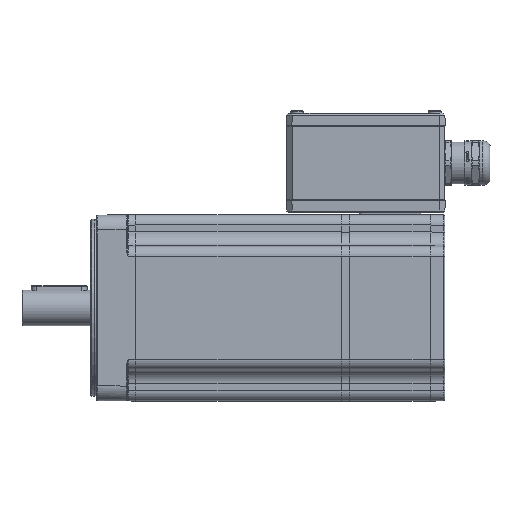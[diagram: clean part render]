
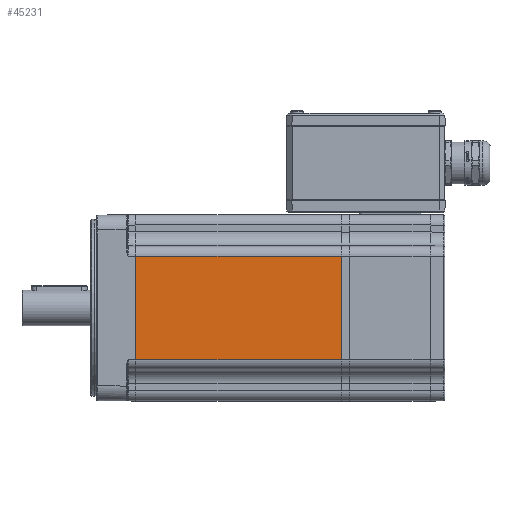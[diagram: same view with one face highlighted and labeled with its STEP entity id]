
A CAD part, left-side view. The second image highlights one B-rep face of the part: STEP entity #45231.
In plain terms, the highlighted planar face has unit normal (-1, 0, 0) as drawn and (1, 0, 0) by its records, which use the part's own axes.
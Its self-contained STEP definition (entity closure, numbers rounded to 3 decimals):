
#1712=LINE('',#83811,#5387);
#1730=LINE('',#83896,#5405);
#1737=LINE('',#83935,#5412);
#1738=LINE('',#83936,#5413);
#5387=VECTOR('',#69900,1000.);
#5405=VECTOR('',#69968,1000.);
#5412=VECTOR('',#70015,1000.);
#5413=VECTOR('',#70016,1000.);
#9041=PLANE('',#62636);
#14648=ORIENTED_EDGE('',*,*,#26157,.T.);
#14649=ORIENTED_EDGE('',*,*,#26098,.T.);
#14650=ORIENTED_EDGE('',*,*,#26158,.T.);
#14651=ORIENTED_EDGE('',*,*,#26140,.T.);
#26098=EDGE_CURVE('',#32153,#32152,#1712,.T.);
#26140=EDGE_CURVE('',#32195,#32194,#1730,.T.);
#26157=EDGE_CURVE('',#32194,#32153,#1737,.T.);
#26158=EDGE_CURVE('',#32152,#32195,#1738,.T.);
#32152=VERTEX_POINT('',#83810);
#32153=VERTEX_POINT('',#83812);
#32194=VERTEX_POINT('',#83895);
#32195=VERTEX_POINT('',#83897);
#38453=EDGE_LOOP('',(#14648,#14649,#14650,#14651));
#41850=FACE_BOUND('',#38453,.T.);
#45231=ADVANCED_FACE('',(#41850),#9041,.T.);
#62636=AXIS2_PLACEMENT_3D('',#83934,#70013,#70014);
#69900=DIRECTION('',(0.,0.,1.));
#69968=DIRECTION('',(0.,0.,-1.));
#70013=DIRECTION('',(1.,0.,0.));
#70014=DIRECTION('',(0.,0.,-1.));
#70015=DIRECTION('',(0.,1.,0.));
#70016=DIRECTION('',(0.,-1.,0.));
#83810=CARTESIAN_POINT('',(50.,111.5,27.75));
#83811=CARTESIAN_POINT('',(50.,111.5,-50.));
#83812=CARTESIAN_POINT('',(50.,111.5,-27.75));
#83895=CARTESIAN_POINT('',(50.,1.,-27.75));
#83896=CARTESIAN_POINT('',(50.,1.,-50.));
#83897=CARTESIAN_POINT('',(50.,1.,27.75));
#83934=CARTESIAN_POINT('',(50.,200.,-50.));
#83935=CARTESIAN_POINT('',(50.,200.,-27.75));
#83936=CARTESIAN_POINT('',(50.,200.,27.75));
